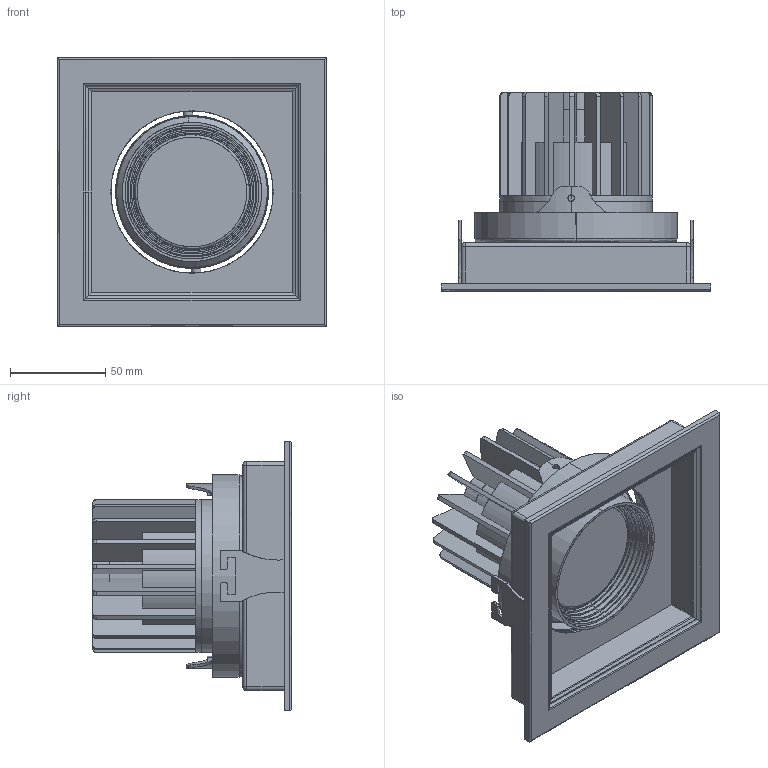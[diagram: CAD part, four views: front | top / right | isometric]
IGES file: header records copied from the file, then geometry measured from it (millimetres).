
Start section: SolidWorks IGES file using analytic representation for surfaces
Global section: file name: F:\GABRYSIA\MODELE 3D\OPRAWY\CL-DIA-LED-8722-WWW\CL-DIA-LED-8722.IGS; native system: SolidWorks 2017; preprocessor: SolidWorks 2017; author: Togambi; date: 200907.100916; units: millimetre
Bounding box: 141 x 104.19 x 141 mm (x, y, z)
Surface area: 171890.2 mm2 (no closed solid volume)
Topology: 0 solids, 0 shells, 426 faces, 6308 edges, 6307 vertices
Faces by surface type: bspline 261, revolution 165
